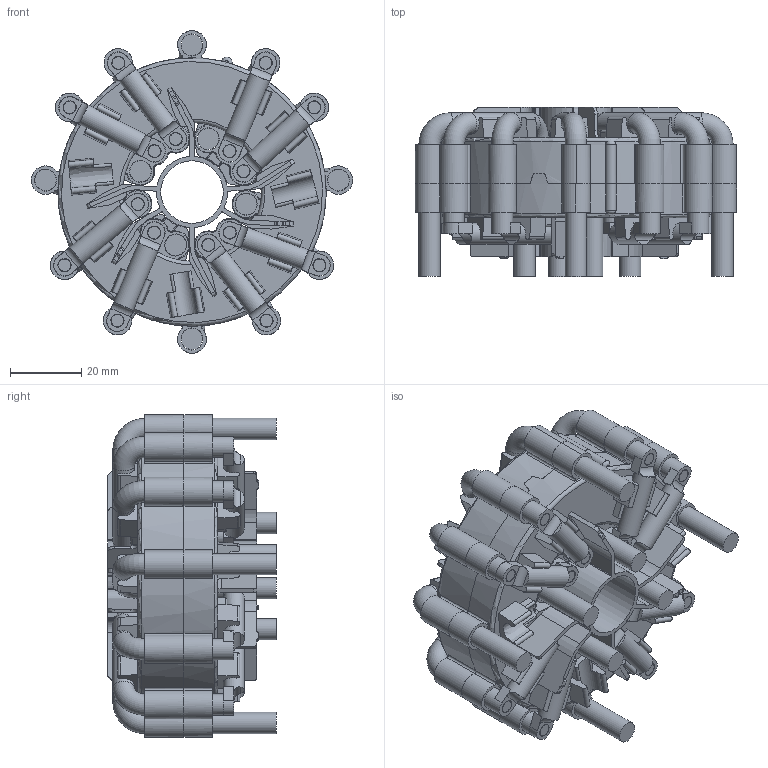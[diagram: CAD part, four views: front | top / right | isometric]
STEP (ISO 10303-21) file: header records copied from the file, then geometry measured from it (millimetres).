
FILE_DESCRIPTION(/* description */ (''),/* implementation_level */ '2;1');
FILE_NAME(/* name */ 'K30779_Baugruppe.stp',/* time_stamp */ '2026-02-11T09:44:28+01:00',/* author */ ('DE041100'),/* organization */ (''),/* preprocessor_version */ 'ST-DEVELOPER v20.1',/* originating_system */ 'Autodesk Inventor 2026',/* authorisation */ '');
FILE_SCHEMA (('AUTOMOTIVE_DESIGN { 1 0 10303 214 3 1 1 }'));
Length unit declared in the file: millimetre
Products named in the file (1): K30777_Multiversion_Baugruppe_Vereinfachen_5
Bounding box: 90.32 x 47.5 x 90.65 mm (x, y, z)
Volume: 132962 mm3; surface area: 72638 mm2
Topology: 1 solids, 1 shells, 1352 faces, 3697 edges, 2379 vertices
Faces by surface type: plane 644, cylinder 542, torus 84, cone 66, bspline 16
Full cylindrical faces by diameter (mm): 3.5 x16, 3.7 x16, 6 x44, 6.2 x44, 17.6 x1, 74.2 x2
Entity records: 46610 total; most frequent: CARTESIAN_POINT 9553, DIRECTION 7962, ORIENTED_EDGE 7394, EDGE_CURVE 3697, AXIS2_PLACEMENT_3D 3120, VERTEX_POINT 2379, CIRCLE 1770, LINE 1722
